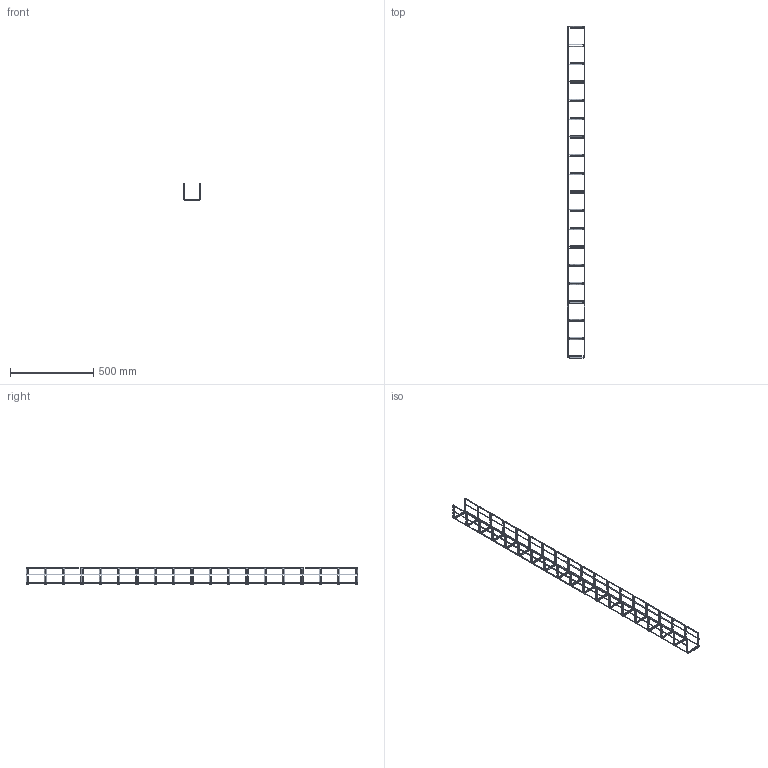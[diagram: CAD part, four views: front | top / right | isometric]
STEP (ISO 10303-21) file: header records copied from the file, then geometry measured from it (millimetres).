
FILE_DESCRIPTION(/* description */ (''),/* implementation_level */ '2;1');
FILE_NAME(/* name */ 'M2_100×100',/* time_stamp */ '2012-11-29T22:01:55+01:00',/* author */ (''),/* organization */ (''),/* preprocessor_version */ 'ST-DEVELOPER v10',/* originating_system */ '',/* authorisation */ '');
FILE_SCHEMA (('AUTOMOTIVE_DESIGN_CC2'));
Length unit declared in the file: millimetre
Products named in the file (1): 1
Bounding box: 104.19 x 1993.5 x 100.75 mm (x, y, z)
Surface area: 272498.1 mm2 (no closed solid volume)
Topology: 0 solids, 318 shells, 624 faces, 1848 edges, 1236 vertices
Faces by surface type: bspline 612, plane 12
Entity records: 52542 total; most frequent: CARTESIAN_POINT 40826, ORIENTED_EDGE 2460, EDGE_CURVE 1848, VERTEX_POINT 1236, B_SPLINE_CURVE_WITH_KNOTS 684, ADVANCED_FACE 624, FACE_OUTER_BOUND 624, EDGE_LOOP 624
